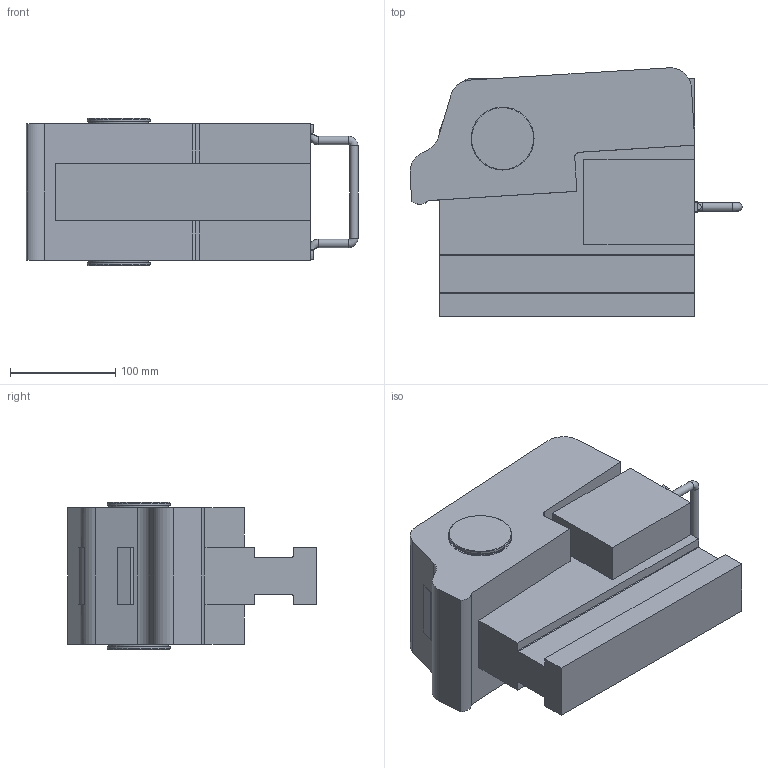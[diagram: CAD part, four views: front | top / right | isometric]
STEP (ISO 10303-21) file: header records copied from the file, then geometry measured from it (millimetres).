
FILE_DESCRIPTION(/* description */ (''),/* implementation_level */ '2;1');
FILE_NAME(/* name */ 'P:\Standard products\2. QDC Clamping Systems\11. ELY - Rocker Clamp\ELY Standard range\3d step files\ELY250_S (11-08-22).stp',/* time_stamp */ '2022-08-11T15:36:51+02:00',/* author */ ('schothorsth'),/* organization */ (''),/* preprocessor_version */ 'ST-DEVELOPER v17.2',/* originating_system */ 'Autodesk Inventor 2019',/* authorisation */ '');
FILE_SCHEMA (('AUTOMOTIVE_DESIGN { 1 0 10303 214 3 1 1 }'));
Length unit declared in the file: millimetre
Products named in the file (1): ELY250_S (11-08-22)
Bounding box: 316.13 x 236.41 x 140 mm (x, y, z)
Volume: 5407506.2 mm3; surface area: 264101.7 mm2
Topology: 1 solids, 1 shells, 92 faces, 235 edges, 154 vertices
Faces by surface type: plane 55, cylinder 31, torus 4, cone 2
Full cylindrical faces by diameter (mm): 8 x3, 57 x2, 59.95 x4
Entity records: 3071 total; most frequent: CARTESIAN_POINT 618, DIRECTION 487, ORIENTED_EDGE 470, EDGE_CURVE 235, AXIS2_PLACEMENT_3D 169, VERTEX_POINT 154, LINE 149, VECTOR 149
